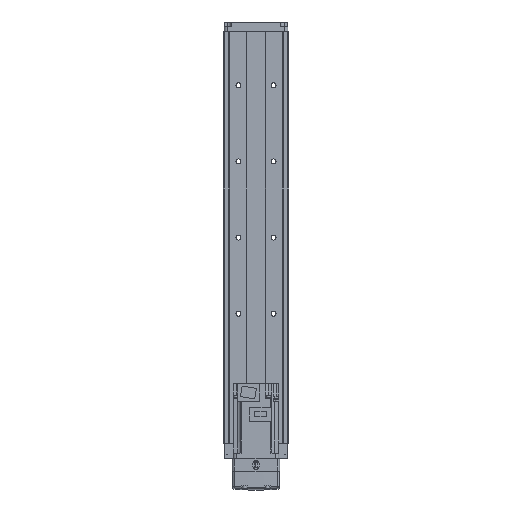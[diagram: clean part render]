
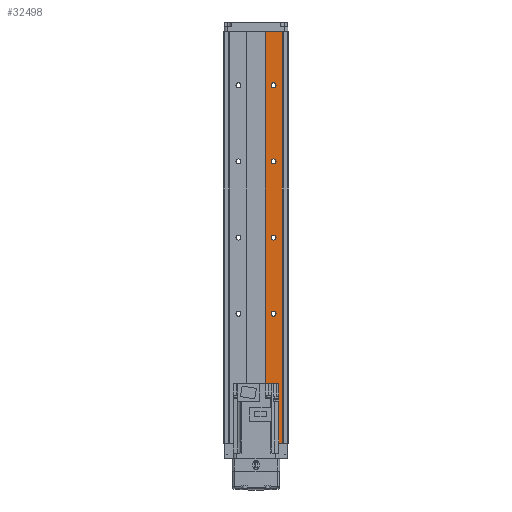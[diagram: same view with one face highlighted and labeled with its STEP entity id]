
A CAD part, front view. The second image highlights one B-rep face of the part: STEP entity #32498.
In plain terms, the highlighted planar face has unit normal (0, -1, 0).
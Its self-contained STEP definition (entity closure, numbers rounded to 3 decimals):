
#195 = FACE_OUTER_BOUND ( 'NONE', #5633, .T. ) ;
#207 = VERTEX_POINT ( 'NONE', #18363 ) ;
#252 = ORIENTED_EDGE ( 'NONE', *, *, #873, .F. ) ;
#462 = AXIS2_PLACEMENT_3D ( 'NONE', #13511, #10282, #23744 ) ;
#873 = EDGE_CURVE ( 'NONE', #28997, #13520, #8877, .T. ) ;
#1206 = VERTEX_POINT ( 'NONE', #41489 ) ;
#1611 = DIRECTION ( 'NONE',  ( 0., -1., 0. ) ) ;
#2383 = CARTESIAN_POINT ( 'NONE',  ( 12.731, -14.462, 540. ) ) ;
#2655 = ORIENTED_EDGE ( 'NONE', *, *, #22036, .F. ) ;
#3259 = CARTESIAN_POINT ( 'NONE',  ( 34.231, -14.462, 0. ) ) ;
#3372 = AXIS2_PLACEMENT_3D ( 'NONE', #2383, #38961, #15617 ) ;
#3479 = EDGE_LOOP ( 'NONE', ( #17949, #34325 ) ) ;
#4196 = ORIENTED_EDGE ( 'NONE', *, *, #32093, .F. ) ;
#4779 = DIRECTION ( 'NONE',  ( 0., 0., 1. ) ) ;
#4986 = ORIENTED_EDGE ( 'NONE', *, *, #38401, .F. ) ;
#5076 = ORIENTED_EDGE ( 'NONE', *, *, #11984, .F. ) ;
#5096 = CIRCLE ( 'NONE', #5140, 3.3 ) ;
#5140 = AXIS2_PLACEMENT_3D ( 'NONE', #37034, #34111, #16727 ) ;
#5254 = DIRECTION ( 'NONE',  ( 0., 0., 1. ) ) ;
#5259 = EDGE_CURVE ( 'NONE', #39420, #17618, #13610, .T. ) ;
#5633 = EDGE_LOOP ( 'NONE', ( #4986, #29257, #15922, #252 ) ) ;
#6837 = CARTESIAN_POINT ( 'NONE',  ( 22.731, -14.462, 470. ) ) ;
#6979 = DIRECTION ( 'NONE',  ( 0., 0., 1. ) ) ;
#7197 = EDGE_CURVE ( 'NONE', #207, #1206, #7672, .T. ) ;
#7672 = CIRCLE ( 'NONE', #12258, 3.3 ) ;
#7850 = VECTOR ( 'NONE', #12644, 1000. ) ;
#8453 = CARTESIAN_POINT ( 'NONE',  ( 22.731, -14.462, 70. ) ) ;
#8574 = PLANE ( 'NONE',  #3372 ) ;
#8877 = LINE ( 'NONE', #18311, #32555 ) ;
#8974 = CARTESIAN_POINT ( 'NONE',  ( 22.731, -14.462, 73.3 ) ) ;
#9365 = DIRECTION ( 'NONE',  ( 0., 0., -1. ) ) ;
#9596 = ORIENTED_EDGE ( 'NONE', *, *, #39813, .F. ) ;
#9720 = FACE_BOUND ( 'NONE', #14257, .T. ) ;
#10282 = DIRECTION ( 'NONE',  ( 0., -1., 0. ) ) ;
#11241 = CARTESIAN_POINT ( 'NONE',  ( 22.731, -14.462, 270. ) ) ;
#11803 = CARTESIAN_POINT ( 'NONE',  ( 12.731, -14.462, 540. ) ) ;
#11862 = DIRECTION ( 'NONE',  ( 0., -1., 0. ) ) ;
#11968 = CARTESIAN_POINT ( 'NONE',  ( 22.731, -14.462, 273.3 ) ) ;
#11984 = EDGE_CURVE ( 'NONE', #36450, #21919, #27954, .T. ) ;
#12258 = AXIS2_PLACEMENT_3D ( 'NONE', #28389, #1611, #21574 ) ;
#12285 = CARTESIAN_POINT ( 'NONE',  ( 22.731, -14.462, 170. ) ) ;
#12574 = AXIS2_PLACEMENT_3D ( 'NONE', #11241, #18115, #17691 ) ;
#12644 = DIRECTION ( 'NONE',  ( 1., 0., 0. ) ) ;
#13393 = CIRCLE ( 'NONE', #462, 3.3 ) ;
#13511 = CARTESIAN_POINT ( 'NONE',  ( 22.731, -14.462, 370. ) ) ;
#13520 = VERTEX_POINT ( 'NONE', #3259 ) ;
#13610 = CIRCLE ( 'NONE', #18077, 3.3 ) ;
#13885 = EDGE_CURVE ( 'NONE', #26872, #13520, #14682, .T. ) ;
#14257 = EDGE_LOOP ( 'NONE', ( #28426, #4196 ) ) ;
#14452 = FACE_BOUND ( 'NONE', #3479, .T. ) ;
#14615 = CARTESIAN_POINT ( 'NONE',  ( 22.731, -14.462, 370. ) ) ;
#14682 = LINE ( 'NONE', #29703, #7850 ) ;
#15490 = FACE_BOUND ( 'NONE', #22760, .T. ) ;
#15617 = DIRECTION ( 'NONE',  ( -1., 0., 0. ) ) ;
#15914 = EDGE_CURVE ( 'NONE', #28002, #30949, #5096, .T. ) ;
#15922 = ORIENTED_EDGE ( 'NONE', *, *, #13885, .T. ) ;
#16526 = LINE ( 'NONE', #11803, #42287 ) ;
#16727 = DIRECTION ( 'NONE',  ( 0., 0., 1. ) ) ;
#16764 = CIRCLE ( 'NONE', #12574, 3.3 ) ;
#16925 = CARTESIAN_POINT ( 'NONE',  ( 22.731, -14.462, 66.7 ) ) ;
#17618 = VERTEX_POINT ( 'NONE', #31089 ) ;
#17691 = DIRECTION ( 'NONE',  ( 0., 0., 1. ) ) ;
#17949 = ORIENTED_EDGE ( 'NONE', *, *, #37376, .F. ) ;
#18077 = AXIS2_PLACEMENT_3D ( 'NONE', #14615, #38084, #28277 ) ;
#18115 = DIRECTION ( 'NONE',  ( 0., -1., 0. ) ) ;
#18212 = AXIS2_PLACEMENT_3D ( 'NONE', #31476, #27653, #34436 ) ;
#18311 = CARTESIAN_POINT ( 'NONE',  ( 34.231, -14.462, 540. ) ) ;
#18363 = CARTESIAN_POINT ( 'NONE',  ( 22.731, -14.462, 473.3 ) ) ;
#18598 = VERTEX_POINT ( 'NONE', #27734 ) ;
#21574 = DIRECTION ( 'NONE',  ( 0., 0., 1. ) ) ;
#21620 = VERTEX_POINT ( 'NONE', #31128 ) ;
#21729 = CIRCLE ( 'NONE', #30432, 3.3 ) ;
#21817 = CARTESIAN_POINT ( 'NONE',  ( 22.731, -14.462, 170. ) ) ;
#21882 = DIRECTION ( 'NONE',  ( 1., 0., 0. ) ) ;
#21919 = VERTEX_POINT ( 'NONE', #40627 ) ;
#22036 = EDGE_CURVE ( 'NONE', #21919, #36450, #16764, .T. ) ;
#22760 = EDGE_LOOP ( 'NONE', ( #39488, #24972 ) ) ;
#23684 = DIRECTION ( 'NONE',  ( 0., -1., 0. ) ) ;
#23744 = DIRECTION ( 'NONE',  ( 0., 0., 1. ) ) ;
#24400 = FACE_BOUND ( 'NONE', #41401, .T. ) ;
#24972 = ORIENTED_EDGE ( 'NONE', *, *, #15914, .F. ) ;
#25259 = AXIS2_PLACEMENT_3D ( 'NONE', #21817, #11862, #5254 ) ;
#25844 = AXIS2_PLACEMENT_3D ( 'NONE', #8453, #38402, #4779 ) ;
#26872 = VERTEX_POINT ( 'NONE', #40098 ) ;
#27653 = DIRECTION ( 'NONE',  ( 0., -1., 0. ) ) ;
#27734 = CARTESIAN_POINT ( 'NONE',  ( 12.731, -14.462, 540. ) ) ;
#27954 = CIRCLE ( 'NONE', #18212, 3.3 ) ;
#28002 = VERTEX_POINT ( 'NONE', #16925 ) ;
#28055 = ORIENTED_EDGE ( 'NONE', *, *, #5259, .F. ) ;
#28277 = DIRECTION ( 'NONE',  ( 0., 0., 1. ) ) ;
#28389 = CARTESIAN_POINT ( 'NONE',  ( 22.731, -14.462, 470. ) ) ;
#28426 = ORIENTED_EDGE ( 'NONE', *, *, #7197, .F. ) ;
#28477 = CARTESIAN_POINT ( 'NONE',  ( 22.731, -14.462, 173.3 ) ) ;
#28997 = VERTEX_POINT ( 'NONE', #29445 ) ;
#29054 = DIRECTION ( 'NONE',  ( 0., -1., 0. ) ) ;
#29257 = ORIENTED_EDGE ( 'NONE', *, *, #32523, .T. ) ;
#29445 = CARTESIAN_POINT ( 'NONE',  ( 34.231, -14.462, 540. ) ) ;
#29703 = CARTESIAN_POINT ( 'NONE',  ( -39.269, -14.462, 0. ) ) ;
#30066 = EDGE_CURVE ( 'NONE', #21620, #39958, #31382, .T. ) ;
#30432 = AXIS2_PLACEMENT_3D ( 'NONE', #6837, #23684, #6979 ) ;
#30949 = VERTEX_POINT ( 'NONE', #8974 ) ;
#31089 = CARTESIAN_POINT ( 'NONE',  ( 22.731, -14.462, 366.7 ) ) ;
#31128 = CARTESIAN_POINT ( 'NONE',  ( 22.731, -14.462, 166.7 ) ) ;
#31382 = CIRCLE ( 'NONE', #25259, 3.3 ) ;
#31476 = CARTESIAN_POINT ( 'NONE',  ( 22.731, -14.462, 270. ) ) ;
#32093 = EDGE_CURVE ( 'NONE', #1206, #207, #21729, .T. ) ;
#32255 = DIRECTION ( 'NONE',  ( 0., 0., -1. ) ) ;
#32498 = ADVANCED_FACE ( 'NONE', ( #15490, #14452, #24400, #43330, #9720, #195 ), #8574, .F. ) ;
#32523 = EDGE_CURVE ( 'NONE', #18598, #26872, #16526, .T. ) ;
#32555 = VECTOR ( 'NONE', #9365, 1000. ) ;
#32793 = CIRCLE ( 'NONE', #25844, 3.3 ) ;
#34111 = DIRECTION ( 'NONE',  ( 0., -1., 0. ) ) ;
#34325 = ORIENTED_EDGE ( 'NONE', *, *, #30066, .F. ) ;
#34436 = DIRECTION ( 'NONE',  ( 0., 0., 1. ) ) ;
#36450 = VERTEX_POINT ( 'NONE', #11968 ) ;
#37034 = CARTESIAN_POINT ( 'NONE',  ( 22.731, -14.462, 70. ) ) ;
#37376 = EDGE_CURVE ( 'NONE', #39958, #21620, #40888, .T. ) ;
#37877 = AXIS2_PLACEMENT_3D ( 'NONE', #12285, #29054, #42104 ) ;
#38084 = DIRECTION ( 'NONE',  ( 0., -1., 0. ) ) ;
#38201 = CARTESIAN_POINT ( 'NONE',  ( 22.731, -14.462, 373.3 ) ) ;
#38401 = EDGE_CURVE ( 'NONE', #18598, #28997, #40804, .T. ) ;
#38402 = DIRECTION ( 'NONE',  ( 0., -1., 0. ) ) ;
#38493 = CARTESIAN_POINT ( 'NONE',  ( -39.269, -14.462, 540. ) ) ;
#38961 = DIRECTION ( 'NONE',  ( 0., 1., 0. ) ) ;
#39420 = VERTEX_POINT ( 'NONE', #38201 ) ;
#39488 = ORIENTED_EDGE ( 'NONE', *, *, #40459, .F. ) ;
#39813 = EDGE_CURVE ( 'NONE', #17618, #39420, #13393, .T. ) ;
#39958 = VERTEX_POINT ( 'NONE', #28477 ) ;
#40098 = CARTESIAN_POINT ( 'NONE',  ( 12.731, -14.462, 0. ) ) ;
#40290 = VECTOR ( 'NONE', #21882, 1000. ) ;
#40459 = EDGE_CURVE ( 'NONE', #30949, #28002, #32793, .T. ) ;
#40627 = CARTESIAN_POINT ( 'NONE',  ( 22.731, -14.462, 266.7 ) ) ;
#40804 = LINE ( 'NONE', #38493, #40290 ) ;
#40888 = CIRCLE ( 'NONE', #37877, 3.3 ) ;
#41401 = EDGE_LOOP ( 'NONE', ( #5076, #2655 ) ) ;
#41489 = CARTESIAN_POINT ( 'NONE',  ( 22.731, -14.462, 466.7 ) ) ;
#42104 = DIRECTION ( 'NONE',  ( 0., 0., 1. ) ) ;
#42287 = VECTOR ( 'NONE', #32255, 1000. ) ;
#43330 = FACE_BOUND ( 'NONE', #43391, .T. ) ;
#43391 = EDGE_LOOP ( 'NONE', ( #28055, #9596 ) ) ;
